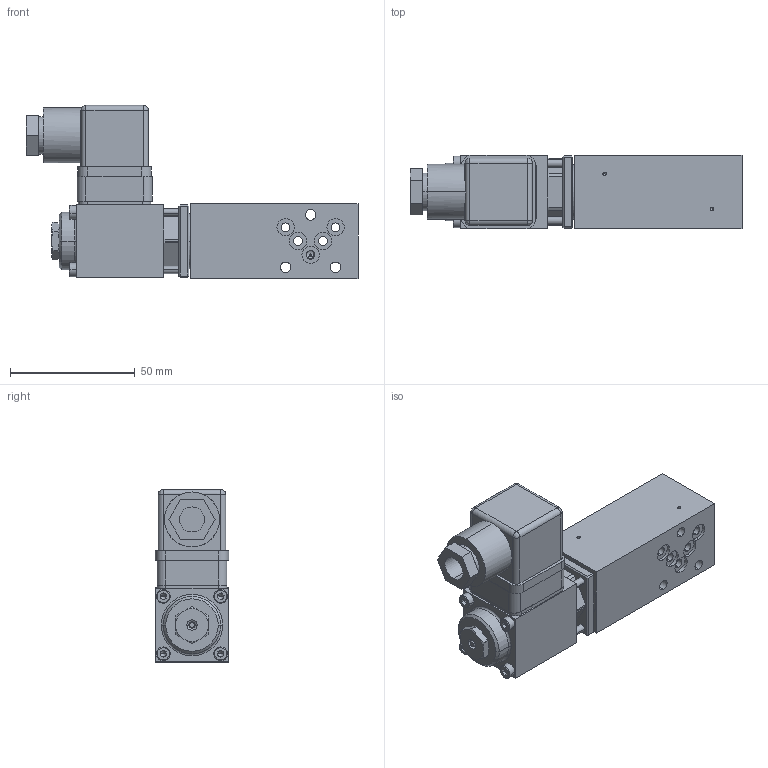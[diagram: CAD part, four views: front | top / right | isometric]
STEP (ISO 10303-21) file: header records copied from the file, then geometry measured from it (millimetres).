
FILE_DESCRIPTION (( 'STEP AP214' ), '1' );
FILE_NAME ('D.PSA03-P.STEP', '2017-04-19T12:47:33', ( '' ), ( '' ), 'SwSTEP 2.0', 'SolidWorks 2016', '' );
FILE_SCHEMA (( 'AUTOMOTIVE_DESIGN' ));
Length unit declared in the file: millimetre
Products named in the file (1): D.PSA03-P
Bounding box: 132.95 x 29.5 x 69.3 mm (x, y, z)
Volume: 128042.6 mm3; surface area: 35392.2 mm2
Topology: 9 solids, 14 shells, 693 faces, 1727 edges, 1097 vertices
Faces by surface type: plane 368, cylinder 231, cone 62, torus 22, bspline 6, sphere 4
Entity records: 28438 total; most frequent: CARTESIAN_POINT 3914, DIRECTION 3640, ORIENTED_EDGE 3410, EDGE_CURVE 1705, AXIS2_PLACEMENT_3D 1311, VERTEX_POINT 1097, VECTOR 1018, LINE 1018
